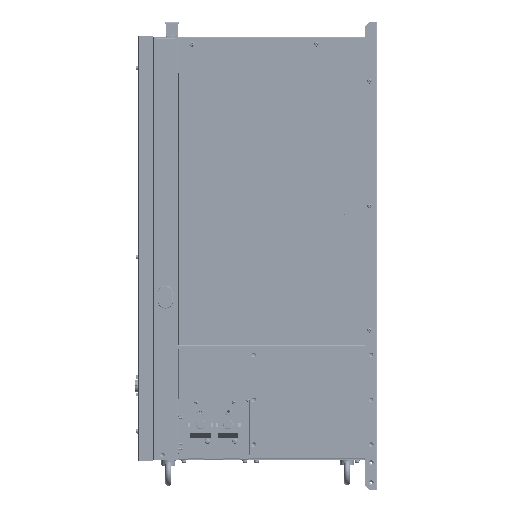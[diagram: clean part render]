
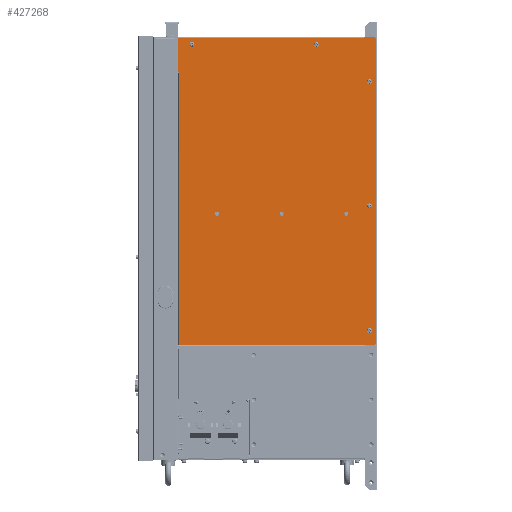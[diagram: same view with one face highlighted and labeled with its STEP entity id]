
A CAD part, left-side view. The second image highlights one B-rep face of the part: STEP entity #427268.
In plain terms, the highlighted planar face has unit normal (-1, 0, 0).
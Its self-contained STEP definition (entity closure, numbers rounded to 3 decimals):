
#23620=FACE_BOUND('',#68559,.T.);
#23621=FACE_BOUND('',#68560,.T.);
#23622=FACE_BOUND('',#68561,.T.);
#23623=FACE_BOUND('',#68562,.T.);
#23624=FACE_BOUND('',#68563,.T.);
#23625=FACE_BOUND('',#68564,.T.);
#23626=FACE_BOUND('',#68565,.T.);
#23627=FACE_BOUND('',#68566,.T.);
#43329=FACE_OUTER_BOUND('',#68558,.T.);
#68558=EDGE_LOOP('',(#372562,#372563,#372564,#372565,#372566,#372567,#372568,
#372569,#372570,#372571,#372572,#372573,#372574,#372575,#372576));
#68559=EDGE_LOOP('',(#372577));
#68560=EDGE_LOOP('',(#372578));
#68561=EDGE_LOOP('',(#372579));
#68562=EDGE_LOOP('',(#372580));
#68563=EDGE_LOOP('',(#372581));
#68564=EDGE_LOOP('',(#372582,#372583));
#68565=EDGE_LOOP('',(#372584,#372585));
#68566=EDGE_LOOP('',(#372586,#372587));
#111041=LINE('',#740200,#154473);
#111042=LINE('',#740202,#154474);
#111043=LINE('',#740204,#154475);
#111044=LINE('',#740206,#154476);
#111045=LINE('',#740208,#154477);
#111046=LINE('',#740212,#154478);
#111047=LINE('',#740214,#154479);
#111048=LINE('',#740216,#154480);
#111049=LINE('',#740219,#154481);
#111050=LINE('',#740221,#154482);
#111051=LINE('',#740225,#154483);
#111052=LINE('',#740226,#154484);
#154473=VECTOR('',#558661,4.243);
#154474=VECTOR('',#558662,613.3);
#154475=VECTOR('',#558663,4.243);
#154476=VECTOR('',#558664,20.5);
#154477=VECTOR('',#558665,0.75);
#154478=VECTOR('',#558668,372.95);
#154479=VECTOR('',#558669,68.5);
#154480=VECTOR('',#558670,0.75);
#154481=VECTOR('',#558673,547.05);
#154482=VECTOR('',#558674,371.45);
#154483=VECTOR('',#558677,0.75);
#154484=VECTOR('',#558678,20.5);
#167999=CIRCLE('',#459515,3.5);
#168000=CIRCLE('',#459517,0.75);
#168001=CIRCLE('',#459518,0.75);
#168002=CIRCLE('',#459519,0.75);
#168003=CIRCLE('',#459520,3.5);
#168004=CIRCLE('',#459521,3.5);
#168005=CIRCLE('',#459522,3.5);
#168006=CIRCLE('',#459523,3.5);
#168007=CIRCLE('',#459524,4.1);
#168008=CIRCLE('',#459525,4.1);
#168009=CIRCLE('',#459526,4.1);
#168010=CIRCLE('',#459527,4.1);
#168011=CIRCLE('',#459528,4.1);
#168012=CIRCLE('',#459529,4.1);
#204596=VERTEX_POINT('',#740123);
#204627=VERTEX_POINT('',#740194);
#204628=VERTEX_POINT('',#740198);
#204629=VERTEX_POINT('',#740199);
#204630=VERTEX_POINT('',#740201);
#204631=VERTEX_POINT('',#740203);
#204632=VERTEX_POINT('',#740205);
#204633=VERTEX_POINT('',#740207);
#204634=VERTEX_POINT('',#740209);
#204635=VERTEX_POINT('',#740211);
#204636=VERTEX_POINT('',#740213);
#204637=VERTEX_POINT('',#740215);
#204638=VERTEX_POINT('',#740217);
#204639=VERTEX_POINT('',#740220);
#204640=VERTEX_POINT('',#740222);
#204641=VERTEX_POINT('',#740224);
#204642=VERTEX_POINT('',#740227);
#204643=VERTEX_POINT('',#740229);
#204644=VERTEX_POINT('',#740231);
#204645=VERTEX_POINT('',#740233);
#204646=VERTEX_POINT('',#740235);
#204647=VERTEX_POINT('',#740236);
#204648=VERTEX_POINT('',#740239);
#204649=VERTEX_POINT('',#740240);
#204650=VERTEX_POINT('',#740243);
#204651=VERTEX_POINT('',#740244);
#261819=EDGE_CURVE('',#204627,#204627,#167999,.T.);
#261820=EDGE_CURVE('',#204628,#204629,#111041,.T.);
#261821=EDGE_CURVE('',#204629,#204630,#111042,.T.);
#261822=EDGE_CURVE('',#204630,#204631,#111043,.T.);
#261823=EDGE_CURVE('',#204631,#204632,#111044,.T.);
#261824=EDGE_CURVE('',#204632,#204633,#111045,.T.);
#261825=EDGE_CURVE('',#204633,#204634,#168000,.T.);
#261826=EDGE_CURVE('',#204634,#204635,#111046,.T.);
#261827=EDGE_CURVE('',#204635,#204636,#111047,.T.);
#261828=EDGE_CURVE('',#204636,#204637,#111048,.T.);
#261829=EDGE_CURVE('',#204637,#204638,#168001,.T.);
#261830=EDGE_CURVE('',#204638,#204596,#111049,.T.);
#261831=EDGE_CURVE('',#204596,#204639,#111050,.T.);
#261832=EDGE_CURVE('',#204640,#204639,#168002,.T.);
#261833=EDGE_CURVE('',#204641,#204640,#111051,.T.);
#261834=EDGE_CURVE('',#204641,#204628,#111052,.T.);
#261835=EDGE_CURVE('',#204642,#204642,#168003,.T.);
#261836=EDGE_CURVE('',#204643,#204643,#168004,.T.);
#261837=EDGE_CURVE('',#204644,#204644,#168005,.T.);
#261838=EDGE_CURVE('',#204645,#204645,#168006,.T.);
#261839=EDGE_CURVE('',#204646,#204647,#168007,.T.);
#261840=EDGE_CURVE('',#204647,#204646,#168008,.T.);
#261841=EDGE_CURVE('',#204648,#204649,#168009,.T.);
#261842=EDGE_CURVE('',#204649,#204648,#168010,.T.);
#261843=EDGE_CURVE('',#204650,#204651,#168011,.T.);
#261844=EDGE_CURVE('',#204651,#204650,#168012,.T.);
#372562=ORIENTED_EDGE('',*,*,#261820,.T.);
#372563=ORIENTED_EDGE('',*,*,#261821,.T.);
#372564=ORIENTED_EDGE('',*,*,#261822,.T.);
#372565=ORIENTED_EDGE('',*,*,#261823,.T.);
#372566=ORIENTED_EDGE('',*,*,#261824,.T.);
#372567=ORIENTED_EDGE('',*,*,#261825,.T.);
#372568=ORIENTED_EDGE('',*,*,#261826,.T.);
#372569=ORIENTED_EDGE('',*,*,#261827,.T.);
#372570=ORIENTED_EDGE('',*,*,#261828,.T.);
#372571=ORIENTED_EDGE('',*,*,#261829,.T.);
#372572=ORIENTED_EDGE('',*,*,#261830,.T.);
#372573=ORIENTED_EDGE('',*,*,#261831,.T.);
#372574=ORIENTED_EDGE('',*,*,#261832,.F.);
#372575=ORIENTED_EDGE('',*,*,#261833,.F.);
#372576=ORIENTED_EDGE('',*,*,#261834,.T.);
#372577=ORIENTED_EDGE('',*,*,#261835,.F.);
#372578=ORIENTED_EDGE('',*,*,#261836,.F.);
#372579=ORIENTED_EDGE('',*,*,#261837,.F.);
#372580=ORIENTED_EDGE('',*,*,#261838,.F.);
#372581=ORIENTED_EDGE('',*,*,#261819,.F.);
#372582=ORIENTED_EDGE('',*,*,#261839,.T.);
#372583=ORIENTED_EDGE('',*,*,#261840,.T.);
#372584=ORIENTED_EDGE('',*,*,#261841,.T.);
#372585=ORIENTED_EDGE('',*,*,#261842,.T.);
#372586=ORIENTED_EDGE('',*,*,#261843,.T.);
#372587=ORIENTED_EDGE('',*,*,#261844,.T.);
#406059=PLANE('',#459516);
#427268=ADVANCED_FACE('',(#43329,#23620,#23621,#23622,#23623,#23624,#23625,
#23626,#23627),#406059,.T.);
#459515=AXIS2_PLACEMENT_3D('',#740196,#558657,#558658);
#459516=AXIS2_PLACEMENT_3D('',#740197,#558659,#558660);
#459517=AXIS2_PLACEMENT_3D('',#740210,#558666,#558667);
#459518=AXIS2_PLACEMENT_3D('',#740218,#558671,#558672);
#459519=AXIS2_PLACEMENT_3D('',#740223,#558675,#558676);
#459520=AXIS2_PLACEMENT_3D('',#740228,#558679,#558680);
#459521=AXIS2_PLACEMENT_3D('',#740230,#558681,#558682);
#459522=AXIS2_PLACEMENT_3D('',#740232,#558683,#558684);
#459523=AXIS2_PLACEMENT_3D('',#740234,#558685,#558686);
#459524=AXIS2_PLACEMENT_3D('',#740237,#558687,#558688);
#459525=AXIS2_PLACEMENT_3D('',#740238,#558689,#558690);
#459526=AXIS2_PLACEMENT_3D('',#740241,#558691,#558692);
#459527=AXIS2_PLACEMENT_3D('',#740242,#558693,#558694);
#459528=AXIS2_PLACEMENT_3D('',#740245,#558695,#558696);
#459529=AXIS2_PLACEMENT_3D('',#740246,#558697,#558698);
#558657=DIRECTION('center_axis',(-1.,0.,0.));
#558658=DIRECTION('ref_axis',(0.,0.,-1.));
#558659=DIRECTION('center_axis',(-1.,0.,0.));
#558660=DIRECTION('ref_axis',(0.,0.,1.));
#558661=DIRECTION('',(0.,-0.707,0.707));
#558662=DIRECTION('',(0.,0.,1.));
#558663=DIRECTION('',(0.,0.707,0.707));
#558664=DIRECTION('',(0.,1.,0.));
#558665=DIRECTION('',(0.,0.,-1.));
#558666=DIRECTION('center_axis',(1.,0.,0.));
#558667=DIRECTION('ref_axis',(0.,-1.,0.));
#558668=DIRECTION('',(0.,1.,0.));
#558669=DIRECTION('',(0.,0.,-1.));
#558670=DIRECTION('',(0.,-1.,0.));
#558671=DIRECTION('center_axis',(1.,0.,0.));
#558672=DIRECTION('ref_axis',(0.,0.,1.));
#558673=DIRECTION('',(0.,0.,-1.));
#558674=DIRECTION('',(0.,-1.,0.));
#558675=DIRECTION('center_axis',(-1.,0.,0.));
#558676=DIRECTION('ref_axis',(0.,-1.,0.));
#558677=DIRECTION('',(0.,0.,1.));
#558678=DIRECTION('',(0.,-1.,0.));
#558679=DIRECTION('center_axis',(-1.,0.,0.));
#558680=DIRECTION('ref_axis',(0.,0.,-1.));
#558681=DIRECTION('center_axis',(-1.,0.,0.));
#558682=DIRECTION('ref_axis',(0.,0.,-1.));
#558683=DIRECTION('center_axis',(-1.,0.,0.));
#558684=DIRECTION('ref_axis',(0.,0.,-1.));
#558685=DIRECTION('center_axis',(-1.,0.,0.));
#558686=DIRECTION('ref_axis',(0.,0.,-1.));
#558687=DIRECTION('center_axis',(1.,0.,0.));
#558688=DIRECTION('ref_axis',(0.,0.,1.));
#558689=DIRECTION('center_axis',(1.,0.,0.));
#558690=DIRECTION('ref_axis',(0.,0.,1.));
#558691=DIRECTION('center_axis',(1.,0.,0.));
#558692=DIRECTION('ref_axis',(0.,0.,1.));
#558693=DIRECTION('center_axis',(1.,0.,0.));
#558694=DIRECTION('ref_axis',(0.,0.,1.));
#558695=DIRECTION('center_axis',(1.,0.,0.));
#558696=DIRECTION('ref_axis',(0.,0.,1.));
#558697=DIRECTION('center_axis',(1.,0.,0.));
#558698=DIRECTION('ref_axis',(0.,0.,1.));
#740123=CARTESIAN_POINT('',(-180.,398.2,-177.8));
#740194=CARTESIAN_POINT('',(-180.,16.,-145.8));
#740196=CARTESIAN_POINT('Origin',(-180.,16.,-149.3));
#740197=CARTESIAN_POINT('Origin',(-180.,-89.591,-294.695));
#740198=CARTESIAN_POINT('',(-180.,5.5,-179.3));
#740199=CARTESIAN_POINT('',(-180.,2.5,-176.3));
#740200=CARTESIAN_POINT('',(-180.,5.5,-179.3));
#740201=CARTESIAN_POINT('',(-180.,2.5,437.));
#740202=CARTESIAN_POINT('',(-180.,2.5,-176.3));
#740203=CARTESIAN_POINT('',(-180.,5.5,440.));
#740204=CARTESIAN_POINT('',(-180.,2.5,437.));
#740205=CARTESIAN_POINT('',(-180.,26.,440.));
#740206=CARTESIAN_POINT('',(-180.,5.5,440.));
#740207=CARTESIAN_POINT('',(-180.,26.,439.25));
#740208=CARTESIAN_POINT('',(-180.,26.,440.));
#740209=CARTESIAN_POINT('',(-180.,26.75,438.5));
#740210=CARTESIAN_POINT('Origin',(-180.,26.75,439.25));
#740211=CARTESIAN_POINT('',(-180.,399.7,438.5));
#740212=CARTESIAN_POINT('',(-180.,26.75,438.5));
#740213=CARTESIAN_POINT('',(-180.,399.7,370.));
#740214=CARTESIAN_POINT('',(-180.,399.7,438.5));
#740215=CARTESIAN_POINT('',(-180.,398.95,370.));
#740216=CARTESIAN_POINT('',(-180.,399.7,370.));
#740217=CARTESIAN_POINT('',(-180.,398.2,369.25));
#740218=CARTESIAN_POINT('Origin',(-180.,398.95,369.25));
#740219=CARTESIAN_POINT('',(-180.,398.2,369.25));
#740220=CARTESIAN_POINT('',(-180.,26.75,-177.8));
#740221=CARTESIAN_POINT('',(-180.,398.2,-177.8));
#740222=CARTESIAN_POINT('',(-180.,26.,-178.55));
#740223=CARTESIAN_POINT('Origin',(-180.,26.75,-178.55));
#740224=CARTESIAN_POINT('',(-180.,26.,-179.3));
#740225=CARTESIAN_POINT('',(-180.,26.,-179.3));
#740226=CARTESIAN_POINT('',(-180.,26.,-179.3));
#740227=CARTESIAN_POINT('',(-180.,16.,104.2));
#740228=CARTESIAN_POINT('Origin',(-180.,16.,100.7));
#740229=CARTESIAN_POINT('',(-180.,16.,354.2));
#740230=CARTESIAN_POINT('Origin',(-180.,16.,350.7));
#740231=CARTESIAN_POINT('',(-180.,122.5,428.5));
#740232=CARTESIAN_POINT('Origin',(-180.,122.5,425.));
#740233=CARTESIAN_POINT('',(-180.,372.5,428.5));
#740234=CARTESIAN_POINT('Origin',(-180.,372.5,425.));
#740235=CARTESIAN_POINT('',(-180.,62.5,80.9));
#740236=CARTESIAN_POINT('',(-180.,62.5,89.1));
#740237=CARTESIAN_POINT('Origin',(-180.,62.5,85.));
#740238=CARTESIAN_POINT('Origin',(-180.,62.5,85.));
#740239=CARTESIAN_POINT('',(-180.,192.5,80.9));
#740240=CARTESIAN_POINT('',(-180.,192.5,89.1));
#740241=CARTESIAN_POINT('Origin',(-180.,192.5,85.));
#740242=CARTESIAN_POINT('Origin',(-180.,192.5,85.));
#740243=CARTESIAN_POINT('',(-180.,322.5,80.9));
#740244=CARTESIAN_POINT('',(-180.,322.5,89.1));
#740245=CARTESIAN_POINT('Origin',(-180.,322.5,85.));
#740246=CARTESIAN_POINT('Origin',(-180.,322.5,85.));
